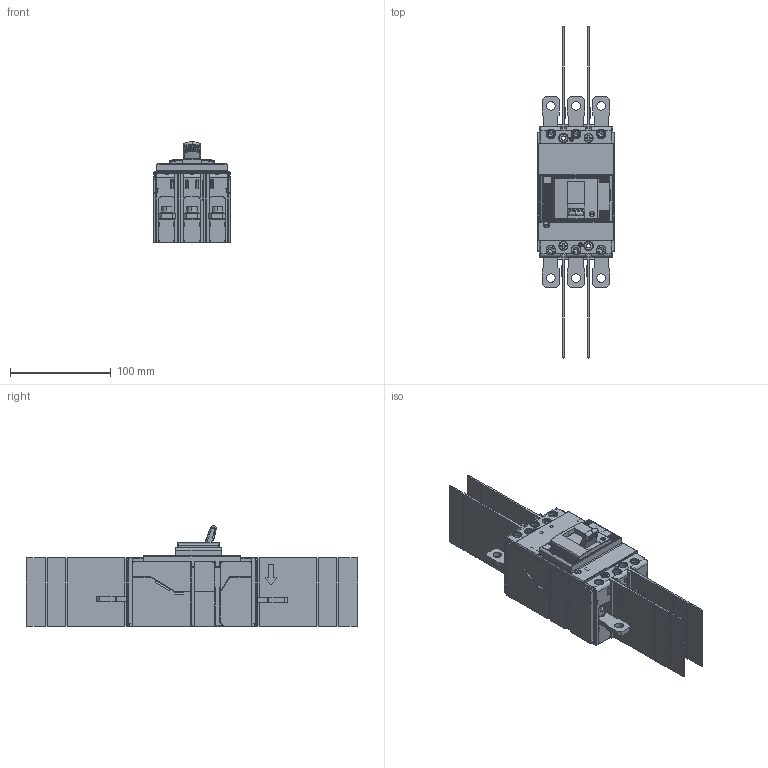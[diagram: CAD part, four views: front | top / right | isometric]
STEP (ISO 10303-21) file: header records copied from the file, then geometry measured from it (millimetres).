
FILE_DESCRIPTION((''),'2;1');
FILE_NAME('10000853644_ASM','2013-12-10T',('Knagaraj'),(''),'PRO/ENGINEER BY PARAMETRIC TECHNOLOGY CORPORATION, 2010140','PRO/ENGINEER BY PARAMETRIC TECHNOLOGY CORPORATION, 2010140','');
FILE_SCHEMA(('CONFIG_CONTROL_DESIGN'));
Products named in the file (13): 10000427928; 10000427929; 10000497120; 10000427932_ASM; 10000853643; 10000839523; 10000907489; 10000907490; 10000907491; 10000907492; 10000907493_ASM; 10000907494_ASM; 10000853644_ASM
Assembly tree (22 placements, depth 4):
  10000853644_ASM
    10000427932_ASM
      10000427928
      10000427929
      10000497120  x2
    10000853643  x2
    10000839523  x4
    10000907494_ASM  x6
      10000907489
      10000907490
      10000907493_ASM
        10000907491
        10000907492
Bounding box: 76.2 x 329.6 x 99.91 mm (x, y, z)
Surface area: 205038.8 mm2 (no closed solid volume)
Topology: 0 solids, 81 shells, 5856 faces, 15430 edges, 9943 vertices
Faces by surface type: plane 4008, cylinder 1382, torus 168, cone 128, sphere 103, bspline 49, extrusion 18
Entity records: 152290 total; most frequent: CARTESIAN_POINT 31553, ORIENTED_EDGE 25400, DIRECTION 24168, EDGE_CURVE 12705, VECTOR 9614, LINE 9596, VERTEX_POINT 8261, AXIS2_PLACEMENT_3D 7277
